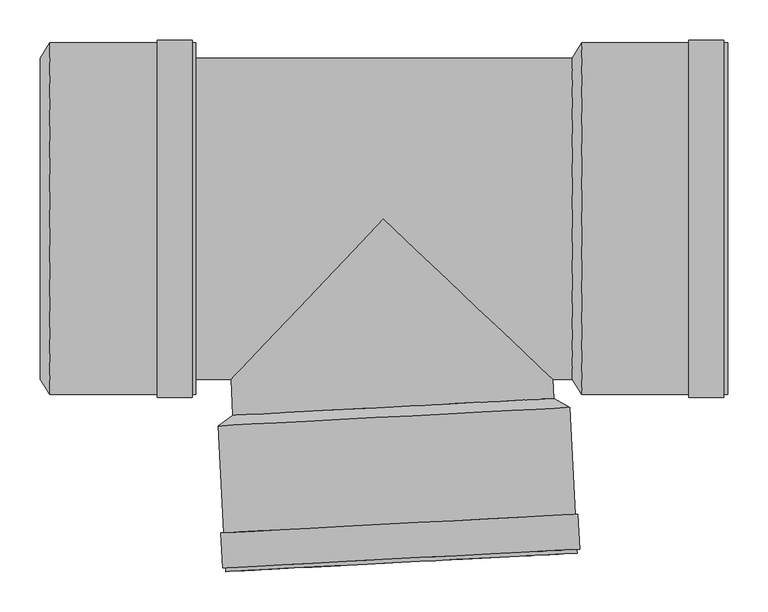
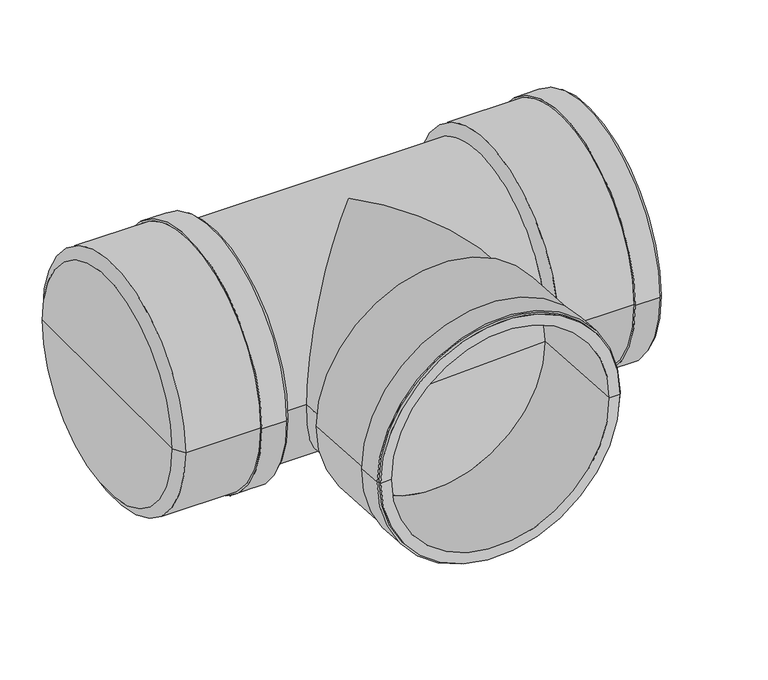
"""IFC4 building model written with IfcOpenShell, lengths in millimetres: pipe fitting geometry, pf_KGEA : pf_KGEA."""

from ifc_helpers import new_model, si_unit, frame, origin, place, context, project, spatial, polyline, circle_curve, ellipse_curve, source, transform, mapped, element, save
from ifc_brep_helpers import plane_surface, cylinder_surface, revolved_surface, advanced_brep


def pipe_fitting_2241f474(model_context):
    return source(origin(), model_context, "Body", "AdvancedBrep", [
        advanced_brep(
        [(-187.4374244, -244.945406, 0.0), (212.0143895, -224.0110235, 0.0), (231.7267123, -235.1946871, 0.0), (-205.8727499, -258.1283031, 0.0), (12.2884825, -234.4782148, 0.0), (-196.358073, -439.6791525, 0.0), (241.2413891, -416.7455365, 0.0), (222.167565, -417.7451533, 0.0), (-177.2842489, -438.6795358, 0.0), (-196.6092856, -434.8857307, 0.0), (240.9901765, -411.9521147, 0.0), (-200.004626, -435.063673, 0.0), (244.3855169, -411.7741725, 0.0), (-202.2864737, -391.5234253, 0.0), (242.1036692, -368.2339248, 0.0), (-198.8911333, -391.345483, 0.0), (238.7083288, -368.411867, 0.0), (-186.7989258, -257.1286863, 0.0), (212.6528881, -236.1943038, 0.0), (12.9269812, -246.6614951, 0.0)],
        [
            (0, 1, circle_curve(frame((12.2884825, -234.4782148, 0.0), z_axis=(0.05233595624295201, -0.9986295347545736, 0.0), x_axis=(0.9986295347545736, 0.05233595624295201, 0.0)), 200.0)),
            (1, 2),
            (2, 3, circle_curve(frame((12.9269812, -246.6614951, 0.0), z_axis=(-0.05233595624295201, 0.9986295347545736, 0.0), x_axis=(0.9986295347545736, 0.05233595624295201, 0.0)), 219.1)),
            (3, 0),
            (1, 0, circle_curve(frame((12.2884825, -234.4782148, 0.0), z_axis=(0.05233595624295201, -0.9986295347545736, 0.0), x_axis=(0.9986295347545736, 0.05233595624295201, 0.0)), 200.0)),
            (3, 2, circle_curve(frame((12.9269812, -246.6614951, 0.0), z_axis=(-0.05233595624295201, 0.9986295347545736, 0.0), x_axis=(0.9986295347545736, 0.05233595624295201, 0.0)), 219.1)),
            (4, 1),
            (0, 4),
            (5, 6, circle_curve(frame((22.441658, -428.2123445, 0.0), z_axis=(0.05233595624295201, -0.9986295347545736, 0.0), x_axis=(0.9986295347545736, 0.05233595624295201, 0.0)), 219.1)),
            (6, 7),
            (7, 8, circle_curve(frame((22.441658, -428.2123445, 0.0), z_axis=(-0.05233595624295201, 0.9986295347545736, 0.0), x_axis=(0.9986295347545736, 0.05233595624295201, 0.0)), 200.0)),
            (8, 5),
            (6, 5, circle_curve(frame((22.441658, -428.2123445, 0.0), z_axis=(0.05233595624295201, -0.9986295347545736, 0.0), x_axis=(0.9986295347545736, 0.05233595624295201, 0.0)), 219.1)),
            (8, 7, circle_curve(frame((22.441658, -428.2123445, 0.0), z_axis=(-0.05233595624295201, 0.9986295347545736, 0.0), x_axis=(0.9986295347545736, 0.05233595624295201, 0.0)), 200.0)),
            (9, 10, circle_curve(frame((22.1904454, -423.4189227, 0.0), z_axis=(0.05233595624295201, -0.9986295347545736, 0.0), x_axis=(0.9986295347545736, 0.05233595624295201, 0.0)), 219.1)),
            (10, 6),
            (5, 9),
            (10, 9, circle_curve(frame((22.1904454, -423.4189227, 0.0), z_axis=(0.05233595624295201, -0.9986295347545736, 0.0), x_axis=(0.9986295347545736, 0.05233595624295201, 0.0)), 219.1)),
            (11, 12, circle_curve(frame((22.1904454, -423.4189227, 0.0), z_axis=(0.05233595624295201, -0.9986295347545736, 0.0), x_axis=(0.9986295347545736, 0.05233595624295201, 0.0)), 222.5)),
            (12, 10),
            (9, 11),
            (12, 11, circle_curve(frame((22.1904454, -423.4189227, 0.0), z_axis=(0.05233595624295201, -0.9986295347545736, 0.0), x_axis=(0.9986295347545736, 0.05233595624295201, 0.0)), 222.5)),
            (13, 14, circle_curve(frame((19.9085978, -379.878675, 0.0), z_axis=(0.05233595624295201, -0.9986295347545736, 0.0), x_axis=(0.9986295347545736, 0.05233595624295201, 0.0)), 222.5)),
            (14, 12),
            (11, 13),
            (14, 13, circle_curve(frame((19.9085978, -379.878675, 0.0), z_axis=(0.05233595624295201, -0.9986295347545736, 0.0), x_axis=(0.9986295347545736, 0.05233595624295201, 0.0)), 222.5)),
            (15, 16, circle_curve(frame((19.9085978, -379.878675, 0.0), z_axis=(0.05233595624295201, -0.9986295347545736, 0.0), x_axis=(0.9986295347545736, 0.05233595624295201, 0.0)), 219.1)),
            (16, 14),
            (13, 15),
            (16, 15, circle_curve(frame((19.9085978, -379.878675, 0.0), z_axis=(0.05233595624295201, -0.9986295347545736, 0.0), x_axis=(0.9986295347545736, 0.05233595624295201, 0.0)), 219.1)),
            (2, 16),
            (15, 3),
            (17, 18, circle_curve(frame((12.9269812, -246.6614951, 0.0), z_axis=(0.05233595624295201, -0.9986295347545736, 0.0), x_axis=(0.9986295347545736, 0.05233595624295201, 0.0)), 200.0)),
            (18, 19),
            (19, 17),
            (18, 17, circle_curve(frame((12.9269812, -246.6614951, 0.0), z_axis=(0.05233595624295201, -0.9986295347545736, 0.0), x_axis=(0.9986295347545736, 0.05233595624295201, 0.0)), 200.0)),
            (7, 18),
            (17, 8),
        ],
        [
            revolved_surface(polyline([(231.7267123, -235.1946871, 0.0), (212.0143895, -224.0110235, 0.0)]), (12.2884825, -234.4782148, 0.0), (-0.05233595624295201, 0.9986295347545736, 0.0)),
            plane_surface(frame((12.2884825, -234.4782148, 0.0), z_axis=(-0.05233595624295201, 0.9986295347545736, 0.0), x_axis=(0.9986295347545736, 0.05233595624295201, 0.0))),
            plane_surface(frame((22.441658, -428.2123445, 0.0), z_axis=(0.05233595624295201, -0.9986295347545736, 0.0), x_axis=(0.9986295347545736, 0.05233595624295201, 0.0))),
            cylinder_surface(frame((12.2884825, -234.4782148, 0.0), z_axis=(-0.05233595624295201, 0.9986295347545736, 0.0), x_axis=(0.9986295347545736, 0.05233595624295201, 0.0)), 219.1),
            plane_surface(frame((22.1904454, -423.4189227, 0.0), z_axis=(0.05233595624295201, -0.9986295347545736, 0.0), x_axis=(0.9986295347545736, 0.05233595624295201, 0.0))),
            cylinder_surface(frame((12.2884825, -234.4782148, 0.0), z_axis=(-0.05233595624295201, 0.9986295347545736, 0.0), x_axis=(0.9986295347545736, 0.05233595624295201, 0.0)), 222.5),
            plane_surface(frame((19.9085978, -379.878675, 0.0), z_axis=(-0.05233595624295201, 0.9986295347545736, 0.0), x_axis=(0.9986295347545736, 0.05233595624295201, 0.0))),
            plane_surface(frame((12.9269812, -246.6614951, 0.0), z_axis=(0.05233595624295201, -0.9986295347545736, 0.0), x_axis=(0.9986295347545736, 0.05233595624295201, 0.0))),
            revolved_surface(polyline([(212.65288811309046, -236.19430379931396, 0.0), (222.16756496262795, -417.7451533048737, 0.0)]), (12.2884825, -234.4782148, 0.0), (-0.05233595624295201, 0.9986295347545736, 0.0)),
        ],
        [
            (0, [[1, 2, 3, 4]]),
            (0, [[5, -4, 6, -2]]),
            (1, [[7, -1, 8]]),
            (1, [[-8, -5, -7]]),
            (2, [[9, 10, 11, 12]]),
            (2, [[13, -12, 14, -10]]),
            (3, [[15, 16, -9, 17]]),
            (3, [[18, -17, -13, -16]]),
            (4, [[19, 20, -15, 21]]),
            (4, [[22, -21, -18, -20]]),
            (5, [[23, 24, -19, 25]]),
            (5, [[26, -25, -22, -24]]),
            (6, [[27, 28, -23, 29]]),
            (6, [[30, -29, -26, -28]]),
            (3, [[-3, 31, -27, 32]]),
            (3, [[-6, -32, -30, -31]]),
            (7, [[33, 34, 35]]),
            (7, [[36, -35, -34]]),
            (8, [[-11, 37, -33, 38]]),
            (8, [[-14, -38, -36, -37]]),
        ],
    ),
        advanced_brep(
        [(234.8, -200.0, 0.0), (234.8, 200.0, 0.0), (247.0, 219.1, 0.0), (247.0, -219.1, 0.0), (234.8, 0.0, 0.0), (428.8, -219.1, 0.0), (428.8, 219.1, 0.0), (428.8, 200.0, 0.0), (428.8, -200.0, 0.0), (424.0, -219.1, 0.0), (424.0, 219.1, 0.0), (424.0, -222.5, 0.0), (424.0, 222.5, 0.0), (380.4, -222.5, 0.0), (380.4, 222.5, 0.0), (380.4, -219.1, 0.0), (380.4, 219.1, 0.0), (247.0, -200.0, 0.0), (247.0, 200.0, 0.0), (247.0, 0.0, 0.0)],
        [
            (0, 1, circle_curve(frame((234.8, 0.0, 0.0), z_axis=(1.0, 0.0, 0.0), x_axis=(0.0, 1.0, 0.0)), 200.0)),
            (1, 2),
            (2, 3, circle_curve(frame((247.0, 0.0, 0.0), z_axis=(-1.0, 0.0, 0.0), x_axis=(0.0, 1.0, 0.0)), 219.1)),
            (3, 0),
            (1, 0, circle_curve(frame((234.8, 0.0, 0.0), z_axis=(1.0, 0.0, 0.0), x_axis=(0.0, 1.0, 0.0)), 200.0)),
            (3, 2, circle_curve(frame((247.0, 0.0, 0.0), z_axis=(-1.0, 0.0, 0.0), x_axis=(0.0, 1.0, 0.0)), 219.1)),
            (4, 1),
            (0, 4),
            (5, 6, circle_curve(frame((428.8, 0.0, 0.0), z_axis=(1.0, 0.0, 0.0), x_axis=(0.0, 1.0, 0.0)), 219.1)),
            (6, 7),
            (7, 8, circle_curve(frame((428.8, 0.0, 0.0), z_axis=(-1.0, 0.0, 0.0), x_axis=(0.0, 1.0, 0.0)), 200.0)),
            (8, 5),
            (6, 5, circle_curve(frame((428.8, 0.0, 0.0), z_axis=(1.0, 0.0, 0.0), x_axis=(0.0, 1.0, 0.0)), 219.1)),
            (8, 7, circle_curve(frame((428.8, 0.0, 0.0), z_axis=(-1.0, 0.0, 0.0), x_axis=(0.0, 1.0, 0.0)), 200.0)),
            (9, 10, circle_curve(frame((424.0, 0.0, 0.0), z_axis=(1.0, 0.0, 0.0), x_axis=(0.0, 1.0, 0.0)), 219.1)),
            (10, 6),
            (5, 9),
            (10, 9, circle_curve(frame((424.0, 0.0, 0.0), z_axis=(1.0, 0.0, 0.0), x_axis=(0.0, 1.0, 0.0)), 219.1)),
            (11, 12, circle_curve(frame((424.0, 0.0, 0.0), z_axis=(1.0, 0.0, 0.0), x_axis=(0.0, 1.0, 0.0)), 222.5)),
            (12, 10),
            (9, 11),
            (12, 11, circle_curve(frame((424.0, 0.0, 0.0), z_axis=(1.0, 0.0, 0.0), x_axis=(0.0, 1.0, 0.0)), 222.5)),
            (13, 14, circle_curve(frame((380.4, 0.0, 0.0), z_axis=(1.0, 0.0, 0.0), x_axis=(0.0, 1.0, 0.0)), 222.5)),
            (14, 12),
            (11, 13),
            (14, 13, circle_curve(frame((380.4, 0.0, 0.0), z_axis=(1.0, 0.0, 0.0), x_axis=(0.0, 1.0, 0.0)), 222.5)),
            (15, 16, circle_curve(frame((380.4, 0.0, 0.0), z_axis=(1.0, 0.0, 0.0), x_axis=(0.0, 1.0, 0.0)), 219.1)),
            (16, 14),
            (13, 15),
            (16, 15, circle_curve(frame((380.4, 0.0, 0.0), z_axis=(1.0, 0.0, 0.0), x_axis=(0.0, 1.0, 0.0)), 219.1)),
            (2, 16),
            (15, 3),
            (17, 18, circle_curve(frame((247.0, 0.0, 0.0), z_axis=(1.0, 0.0, 0.0), x_axis=(0.0, 1.0, 0.0)), 200.0)),
            (18, 19),
            (19, 17),
            (18, 17, circle_curve(frame((247.0, 0.0, 0.0), z_axis=(1.0, 0.0, 0.0), x_axis=(0.0, 1.0, 0.0)), 200.0)),
            (7, 18),
            (17, 8),
        ],
        [
            revolved_surface(polyline([(247.0, 219.1, 0.0), (234.8, 200.0, 0.0)]), (234.8, 0.0, 0.0), (-1.0, 0.0, 0.0)),
            plane_surface(frame((234.8, 0.0, 0.0), z_axis=(-1.0, 0.0, 0.0), x_axis=(0.0, 1.0, 0.0))),
            plane_surface(frame((428.8, 0.0, 0.0), z_axis=(1.0, 0.0, 0.0), x_axis=(0.0, 1.0, 0.0))),
            cylinder_surface(frame((234.8, 0.0, 0.0), z_axis=(-1.0, 0.0, 0.0), x_axis=(0.0, 1.0, 0.0)), 219.1),
            plane_surface(frame((424.0, 0.0, 0.0), z_axis=(1.0, 0.0, 0.0), x_axis=(0.0, 1.0, 0.0))),
            cylinder_surface(frame((234.8, 0.0, 0.0), z_axis=(-1.0, 0.0, 0.0), x_axis=(0.0, 1.0, 0.0)), 222.5),
            plane_surface(frame((380.4, 0.0, 0.0), z_axis=(-1.0, 0.0, 0.0), x_axis=(0.0, 1.0, 0.0))),
            plane_surface(frame((247.0, 0.0, 0.0), z_axis=(1.0, 0.0, 0.0), x_axis=(0.0, 1.0, 0.0))),
            revolved_surface(polyline([(247.0, 200.0, 0.0), (428.8, 200.0, 0.0)]), (234.8, 0.0, 0.0), (-1.0, 0.0, 0.0)),
        ],
        [
            (0, [[1, 2, 3, 4]]),
            (0, [[5, -4, 6, -2]]),
            (1, [[7, -1, 8]]),
            (1, [[-8, -5, -7]]),
            (2, [[9, 10, 11, 12]]),
            (2, [[13, -12, 14, -10]]),
            (3, [[15, 16, -9, 17]]),
            (3, [[18, -17, -13, -16]]),
            (4, [[19, 20, -15, 21]]),
            (4, [[22, -21, -18, -20]]),
            (5, [[23, 24, -19, 25]]),
            (5, [[26, -25, -22, -24]]),
            (6, [[27, 28, -23, 29]]),
            (6, [[30, -29, -26, -28]]),
            (3, [[-3, 31, -27, 32]]),
            (3, [[-6, -32, -30, -31]]),
            (7, [[33, 34, 35]]),
            (7, [[36, -35, -34]]),
            (8, [[-11, 37, -33, 38]]),
            (8, [[-14, -38, -36, -37]]),
        ],
    ),
        advanced_brep(
        [(-427.4, -200.0, 0.0), (-427.4, 200.0, 0.0), (-415.2, 219.1, 0.0), (-415.2, -219.1, 0.0), (-427.4, 0.0, 0.0), (-233.4, -219.1, 0.0), (-233.4, 219.1, 0.0), (-233.4, 200.0, 0.0), (-233.4, -200.0, 0.0), (-238.2, -219.1, 0.0), (-238.2, 219.1, 0.0), (-238.2, -222.5, 0.0), (-238.2, 222.5, 0.0), (-281.8, -222.5, 0.0), (-281.8, 222.5, 0.0), (-281.8, -219.1, 0.0), (-281.8, 219.1, 0.0), (-415.2, -200.0, 0.0), (-415.2, 200.0, 0.0), (-415.2, 0.0, 0.0)],
        [
            (0, 1, circle_curve(frame((-427.4, 0.0, 0.0), z_axis=(1.0, 0.0, 0.0), x_axis=(0.0, 1.0, 0.0)), 200.0)),
            (1, 2),
            (2, 3, circle_curve(frame((-415.2, 0.0, 0.0), z_axis=(-1.0, 0.0, 0.0), x_axis=(0.0, 1.0, 0.0)), 219.1)),
            (3, 0),
            (1, 0, circle_curve(frame((-427.4, 0.0, 0.0), z_axis=(1.0, 0.0, 0.0), x_axis=(0.0, 1.0, 0.0)), 200.0)),
            (3, 2, circle_curve(frame((-415.2, 0.0, 0.0), z_axis=(-1.0, 0.0, 0.0), x_axis=(0.0, 1.0, 0.0)), 219.1)),
            (4, 1),
            (0, 4),
            (5, 6, circle_curve(frame((-233.4, 0.0, 0.0), z_axis=(1.0, 0.0, 0.0), x_axis=(0.0, 1.0, 0.0)), 219.1)),
            (6, 7),
            (7, 8, circle_curve(frame((-233.4, 0.0, 0.0), z_axis=(-1.0, 0.0, 0.0), x_axis=(0.0, 1.0, 0.0)), 200.0)),
            (8, 5),
            (6, 5, circle_curve(frame((-233.4, 0.0, 0.0), z_axis=(1.0, 0.0, 0.0), x_axis=(0.0, 1.0, 0.0)), 219.1)),
            (8, 7, circle_curve(frame((-233.4, 0.0, 0.0), z_axis=(-1.0, 0.0, 0.0), x_axis=(0.0, 1.0, 0.0)), 200.0)),
            (9, 10, circle_curve(frame((-238.2, 0.0, 0.0), z_axis=(1.0, 0.0, 0.0), x_axis=(0.0, 1.0, 0.0)), 219.1)),
            (10, 6),
            (5, 9),
            (10, 9, circle_curve(frame((-238.2, 0.0, 0.0), z_axis=(1.0, 0.0, 0.0), x_axis=(0.0, 1.0, 0.0)), 219.1)),
            (11, 12, circle_curve(frame((-238.2, 0.0, 0.0), z_axis=(1.0, 0.0, 0.0), x_axis=(0.0, 1.0, 0.0)), 222.5)),
            (12, 10),
            (9, 11),
            (12, 11, circle_curve(frame((-238.2, 0.0, 0.0), z_axis=(1.0, 0.0, 0.0), x_axis=(0.0, 1.0, 0.0)), 222.5)),
            (13, 14, circle_curve(frame((-281.8, 0.0, 0.0), z_axis=(1.0, 0.0, 0.0), x_axis=(0.0, 1.0, 0.0)), 222.5)),
            (14, 12),
            (11, 13),
            (14, 13, circle_curve(frame((-281.8, 0.0, 0.0), z_axis=(1.0, 0.0, 0.0), x_axis=(0.0, 1.0, 0.0)), 222.5)),
            (15, 16, circle_curve(frame((-281.8, 0.0, 0.0), z_axis=(1.0, 0.0, 0.0), x_axis=(0.0, 1.0, 0.0)), 219.1)),
            (16, 14),
            (13, 15),
            (16, 15, circle_curve(frame((-281.8, 0.0, 0.0), z_axis=(1.0, 0.0, 0.0), x_axis=(0.0, 1.0, 0.0)), 219.1)),
            (2, 16),
            (15, 3),
            (17, 18, circle_curve(frame((-415.2, 0.0, 0.0), z_axis=(1.0, 0.0, 0.0), x_axis=(0.0, 1.0, 0.0)), 200.0)),
            (18, 19),
            (19, 17),
            (18, 17, circle_curve(frame((-415.2, 0.0, 0.0), z_axis=(1.0, 0.0, 0.0), x_axis=(0.0, 1.0, 0.0)), 200.0)),
            (7, 18),
            (17, 8),
        ],
        [
            revolved_surface(polyline([(-415.2, 219.1, 0.0), (-427.4, 200.0, 0.0)]), (-427.4, 0.0, 0.0), (-1.0, 0.0, 0.0)),
            plane_surface(frame((-427.4, 0.0, 0.0), z_axis=(-1.0, 0.0, 0.0), x_axis=(0.0, 1.0, 0.0))),
            plane_surface(frame((-233.4, 0.0, 0.0), z_axis=(1.0, 0.0, 0.0), x_axis=(0.0, 1.0, 0.0))),
            cylinder_surface(frame((-427.4, 0.0, 0.0), z_axis=(-1.0, 0.0, 0.0), x_axis=(0.0, 1.0, 0.0)), 219.1),
            plane_surface(frame((-238.2, 0.0, 0.0), z_axis=(1.0, 0.0, 0.0), x_axis=(0.0, 1.0, 0.0))),
            cylinder_surface(frame((-427.4, 0.0, 0.0), z_axis=(-1.0, 0.0, 0.0), x_axis=(0.0, 1.0, 0.0)), 222.5),
            plane_surface(frame((-281.8, 0.0, 0.0), z_axis=(-1.0, 0.0, 0.0), x_axis=(0.0, 1.0, 0.0))),
            plane_surface(frame((-415.2, 0.0, 0.0), z_axis=(1.0, 0.0, 0.0), x_axis=(0.0, 1.0, 0.0))),
            revolved_surface(polyline([(-415.2, 200.0, 0.0), (-233.4, 200.0, 0.0)]), (-427.4, 0.0, 0.0), (-1.0, 0.0, 0.0)),
        ],
        [
            (0, [[1, 2, 3, 4]]),
            (0, [[5, -4, 6, -2]]),
            (1, [[7, -1, 8]]),
            (1, [[-8, -5, -7]]),
            (2, [[9, 10, 11, 12]]),
            (2, [[13, -12, 14, -10]]),
            (3, [[15, 16, -9, 17]]),
            (3, [[18, -17, -13, -16]]),
            (4, [[19, 20, -15, 21]]),
            (4, [[22, -21, -18, -20]]),
            (5, [[23, 24, -19, 25]]),
            (5, [[26, -25, -22, -24]]),
            (6, [[27, 28, -23, 29]]),
            (6, [[30, -29, -26, -28]]),
            (3, [[-3, 31, -27, 32]]),
            (3, [[-6, -32, -30, -31]]),
            (7, [[33, 34, 35]]),
            (7, [[36, -35, -34]]),
            (8, [[-11, 37, -33, 38]]),
            (8, [[-14, -38, -36, -37]]),
        ],
    ),
        advanced_brep(
        [(-415.2, -200.0, 0.0), (-415.2, 200.0, 0.0), (234.8, -200.0, 0.0), (234.8, 200.0, 0.0), (-189.7929133, -200.0, 0.0), (0.0, 0.0, 200.0), (210.7560251, -200.0, 0.0), (0.0, 0.0, -200.0), (-187.4374244, -244.945406, 0.0), (212.0143895, -224.0110235, 0.0)],
        [
            (0, 1, circle_curve(frame((-415.2, 0.0, 0.0), z_axis=(-1.0, 0.0, 0.0), x_axis=(0.0, 1.0, 0.0)), 200.0)),
            (1, 0, circle_curve(frame((-415.2, 0.0, 0.0), z_axis=(-1.0, 0.0, 0.0), x_axis=(0.0, 1.0, 0.0)), 200.0)),
            (2, 3, circle_curve(frame((234.8, 0.0, 0.0), z_axis=(1.0, 0.0, 0.0), x_axis=(0.0, 1.0, 0.0)), 200.0)),
            (3, 2, circle_curve(frame((234.8, 0.0, 0.0), z_axis=(1.0, 0.0, 0.0), x_axis=(0.0, 1.0, 0.0)), 200.0)),
            (0, 4),
            (4, 5, ellipse_curve(frame((0.0, 0.0, 0.0), z_axis=(-0.7253743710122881, 0.6883545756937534, 0.0), x_axis=(-0.6883545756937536, -0.725374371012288, 0.0)), 275.7196945, 200.0)),
            (5, 6, ellipse_curve(frame((0.0, 0.0, 0.0), z_axis=(0.6883545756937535, 0.7253743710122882, 0.0), x_axis=(-0.7253743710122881, 0.6883545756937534, 0.0)), 290.5479343, 200.0)),
            (6, 2),
            (3, 1),
            (6, 7, ellipse_curve(frame((0.0, 0.0, 0.0), z_axis=(0.6883545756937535, 0.7253743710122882, 0.0), x_axis=(-0.7253743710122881, 0.6883545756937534, 0.0)), 290.5479343, 200.0)),
            (7, 4, ellipse_curve(frame((0.0, 0.0, 0.0), z_axis=(-0.7253743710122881, 0.6883545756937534, 0.0), x_axis=(-0.6883545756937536, -0.725374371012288, 0.0)), 275.7196945, 200.0)),
            (8, 9, circle_curve(frame((12.2884825, -234.4782148, 0.0), z_axis=(0.05233595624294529, -0.9986295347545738, 0.0), x_axis=(0.9986295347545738, 0.05233595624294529, 0.0)), 200.0)),
            (9, 8, circle_curve(frame((12.2884825, -234.4782148, 0.0), z_axis=(0.05233595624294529, -0.9986295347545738, 0.0), x_axis=(0.9986295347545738, 0.05233595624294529, 0.0)), 200.0)),
            (9, 6),
            (4, 8),
        ],
        [
            plane_surface(frame((-415.2, 0.0, 0.0), z_axis=(-1.0, 0.0, 0.0), x_axis=(0.0, 0.0, 1.0))),
            plane_surface(frame((234.8, 0.0, 0.0), z_axis=(1.0, 0.0, 0.0), x_axis=(0.0, 0.0, 1.0))),
            cylinder_surface(frame((-415.2, 0.0, 0.0), z_axis=(-1.0, 0.0, 0.0), x_axis=(0.0, 1.0, 0.0)), 200.0),
            plane_surface(frame((12.2884825, -234.4782148, 0.0), z_axis=(0.05233595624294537, -0.9986295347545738, 0.0), x_axis=(0.0, 0.0, 1.0))),
            cylinder_surface(frame((0.0, 0.0, 0.0), z_axis=(-0.05233595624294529, 0.9986295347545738, 0.0), x_axis=(0.9986295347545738, 0.05233595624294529, 0.0)), 200.0),
        ],
        [
            (0, [[1, 2]]),
            (1, [[3, 4]]),
            (2, [[-1, 5, 6, 7, 8, -4, 9]]),
            (2, [[-2, -9, -3, -8, 10, 11, -5]]),
            (3, [[12, 13]]),
            (4, [[-13, 14, -7, -6, 15]]),
            (4, [[-12, -15, -11, -10, -14]]),
        ],
    ),
    ])


if __name__ == "__main__":
    model = new_model("IFC4")
    model_context = context("Model", 3, world=origin())
    ifc_project = project(units=[si_unit("LENGTHUNIT", "METRE", prefix="MILLI")], contexts=[model_context])
    site = spatial("IfcSite", under=ifc_project)
    building = spatial("IfcBuilding", under=site)
    placement = place(None, origin())
    pipe_fitting_shape = pipe_fitting_2241f474(model_context)
    element("IfcPipeFitting", 1, ObjectType="pf_KGEA : pf_KGEA", at=placement, inside=building, context=model_context, shape_type="MappedRepresentation", body=[
        mapped(pipe_fitting_shape, transform((0.0, 0.0, 0.0), x_axis=(1.0, 0.0, 0.0), y_axis=(0.0, 1.0, 0.0), z_axis=(0.0, 0.0, 1.0))),
    ])
    save(model, "model.ifc")
